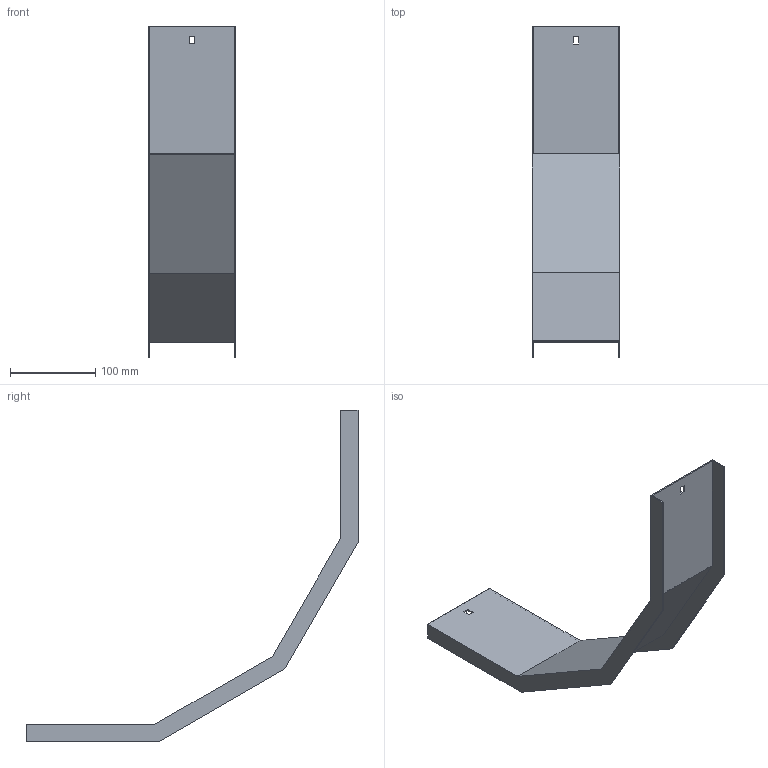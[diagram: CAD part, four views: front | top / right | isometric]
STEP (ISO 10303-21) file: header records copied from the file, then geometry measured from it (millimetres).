
FILE_DESCRIPTION (( 'STEP AP214' ), '1' );
FILE_NAME ('A2X30N3R100X.step', '2025-04-02T08:33:57', ( '' ), ( '' ), 'SwSTEP 2.0', 'SolidWorks 2023', '' );
FILE_SCHEMA (( 'AUTOMOTIVE_DESIGN' ));
Length unit declared in the file: millimetre
Products named in the file (1): A2X30N3R100X
Bounding box: 103 x 388.95 x 388.95 mm (x, y, z)
Volume: 131254 mm3; surface area: 177472.4 mm2
Topology: 1 solids, 1 shells, 30 faces, 84 edges, 56 vertices
Faces by surface type: plane 30
Entity records: 979 total; most frequent: CARTESIAN_POINT 171, ORIENTED_EDGE 168, DIRECTION 146, LINE 84, VECTOR 84, EDGE_CURVE 84, VERTEX_POINT 56, EDGE_LOOP 34
